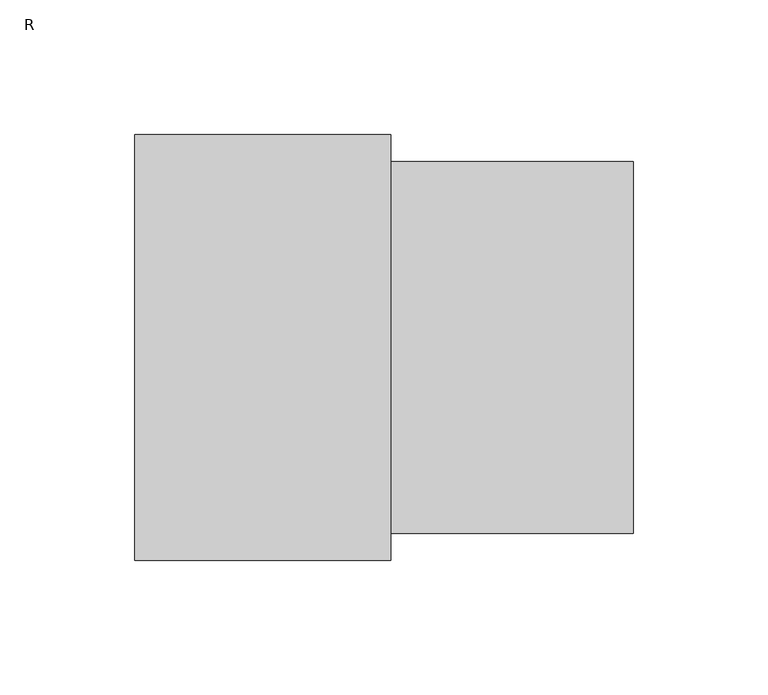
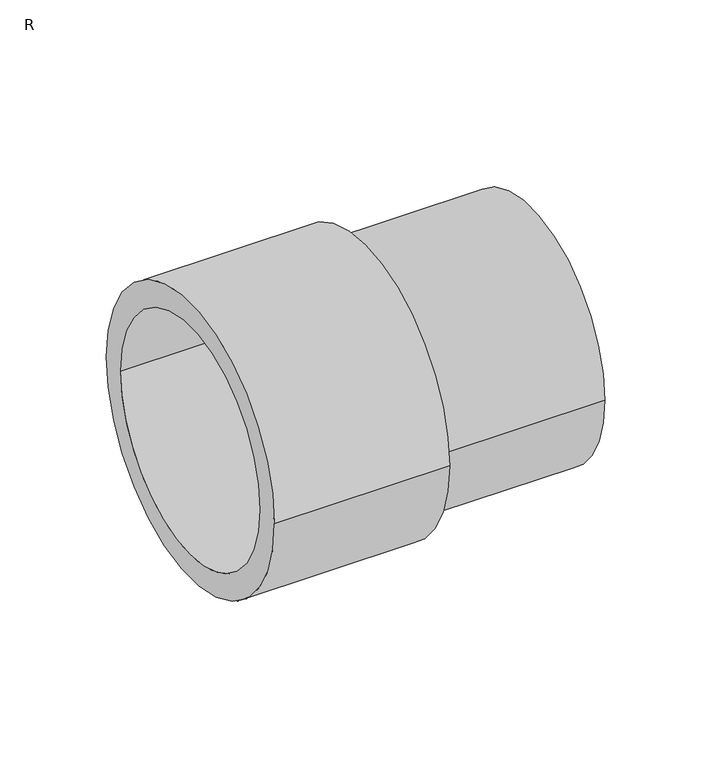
"""IFC4 building model written with IfcOpenShell, lengths in millimetres: pipe fitting geometry, FUSAPEX reducer : R."""

from ifc_helpers import new_model, si_unit, frame, origin, place, context, project, spatial, polyline, circle_curve, source, transform, mapped, element, save
from ifc_brep_helpers import plane_surface, cylinder_surface, revolved_surface, advanced_brep


def r_1e384c2f(model_context):
    return source(origin(), model_context, "Body", "AdvancedBrep", [
        advanced_brep(
        [(-95.0, 65.4, 0.0), (-95.0, -65.4, 0.0), (-14.0, -65.4, 0.0), (-14.0, 65.4, 0.0), (0.0, 79.0, 0.0), (0.0, -79.0, 0.0), (-95.0, -79.0, 0.0), (-95.0, 79.0, 0.0), (90.0, 69.0, 0.0), (90.0, -69.0, 0.0), (0.0, -69.0, 0.0), (0.0, 69.0, 0.0), (-14.0, 57.3, 0.0), (-14.0, -57.3, 0.0), (90.0, -57.3, 0.0), (90.0, 57.3, 0.0)],
        [
            (0, 1, circle_curve(frame((-95.0, 0.0, 0.0), z_axis=(-1.0, 0.0, 0.0), x_axis=(0.0, -1.0, 0.0)), 65.4)),
            (1, 2),
            (2, 3, circle_curve(frame((-14.0, 0.0, 0.0), z_axis=(1.0, 0.0, 0.0), x_axis=(0.0, -1.0, 0.0)), 65.4)),
            (3, 0),
            (4, 5, circle_curve(frame((0.0, 0.0, 0.0), z_axis=(-1.0, 0.0, 0.0), x_axis=(0.0, -1.0, 0.0)), 79.0)),
            (5, 6),
            (6, 7, circle_curve(frame((-95.0, 0.0, 0.0), z_axis=(1.0, 0.0, 0.0), x_axis=(0.0, -1.0, 0.0)), 79.0)),
            (7, 4),
            (8, 9, circle_curve(frame((90.0, 0.0, 0.0), z_axis=(-1.0, 0.0, 0.0), x_axis=(0.0, -1.0, 0.0)), 69.0)),
            (9, 10),
            (10, 11, circle_curve(frame((0.0, 0.0, 0.0), z_axis=(1.0, 0.0, 0.0), x_axis=(0.0, -1.0, 0.0)), 69.0)),
            (11, 8),
            (12, 13, circle_curve(frame((-14.0, 0.0, 0.0), z_axis=(-1.0, 0.0, 0.0), x_axis=(0.0, -1.0, 0.0)), 57.3)),
            (13, 14),
            (14, 15, circle_curve(frame((90.0, 0.0, 0.0), z_axis=(1.0, 0.0, 0.0), x_axis=(0.0, -1.0, 0.0)), 57.3)),
            (15, 12),
            (1, 0, circle_curve(frame((-95.0, 0.0, 0.0), z_axis=(-1.0, 0.0, 0.0), x_axis=(0.0, 1.0, 0.0)), 65.4)),
            (3, 2, circle_curve(frame((-14.0, 0.0, 0.0), z_axis=(1.0, 0.0, 0.0), x_axis=(0.0, 1.0, 0.0)), 65.4)),
            (6, 7, circle_curve(frame((-95.0, 0.0, 0.0), z_axis=(-1.0, 0.0, 0.0), x_axis=(0.0, 1.0, 0.0)), 79.0)),
            (5, 4, circle_curve(frame((0.0, 0.0, 0.0), z_axis=(-1.0, 0.0, 0.0), x_axis=(0.0, 1.0, 0.0)), 79.0)),
            (10, 11, circle_curve(frame((0.0, 0.0, 0.0), z_axis=(-1.0, 0.0, 0.0), x_axis=(0.0, 1.0, 0.0)), 69.0)),
            (9, 8, circle_curve(frame((90.0, 0.0, 0.0), z_axis=(-1.0, 0.0, 0.0), x_axis=(0.0, 1.0, 0.0)), 69.0)),
            (14, 15, circle_curve(frame((90.0, 0.0, 0.0), z_axis=(-1.0, 0.0, 0.0), x_axis=(0.0, 1.0, 0.0)), 57.3)),
            (13, 12, circle_curve(frame((-14.0, 0.0, 0.0), z_axis=(-1.0, 0.0, 0.0), x_axis=(0.0, 1.0, 0.0)), 57.3)),
        ],
        [
            revolved_surface(polyline([(-14.0, -65.4, 0.0), (-95.0, -65.4, 0.0)]), (0.0, 0.0, 0.0), (1.0, 0.0, 0.0)),
            cylinder_surface(frame((0.0, 0.0, 0.0), z_axis=(1.0, 0.0, 0.0), x_axis=(0.0, -1.0, 0.0)), 79.0),
            cylinder_surface(frame((0.0, 0.0, 0.0), z_axis=(1.0, 0.0, 0.0), x_axis=(0.0, -1.0, 0.0)), 69.0),
            revolved_surface(polyline([(90.0, -57.3, 0.0), (-14.0, -57.3, 0.0)]), (0.0, 0.0, 0.0), (1.0, 0.0, 0.0)),
            revolved_surface(polyline([(-14.0, 65.4, 0.0), (-95.0, 65.4, 0.0)]), (0.0, 0.0, 0.0), (1.0, 0.0, 0.0)),
            plane_surface(frame((-95.0, 0.0, 0.0), z_axis=(-1.0, 0.0, 0.0), x_axis=(0.0, 1.0, 0.0))),
            cylinder_surface(frame((0.0, 0.0, 0.0), z_axis=(1.0, 0.0, 0.0), x_axis=(0.0, 1.0, 0.0)), 79.0),
            plane_surface(frame((0.0, 0.0, 0.0), z_axis=(1.0, 0.0, 0.0), x_axis=(0.0, 1.0, 0.0))),
            cylinder_surface(frame((0.0, 0.0, 0.0), z_axis=(1.0, 0.0, 0.0), x_axis=(0.0, 1.0, 0.0)), 69.0),
            plane_surface(frame((90.0, 0.0, 0.0), z_axis=(1.0, 0.0, 0.0), x_axis=(0.0, 1.0, 0.0))),
            revolved_surface(polyline([(90.0, 57.3, 0.0), (-14.0, 57.3, 0.0)]), (0.0, 0.0, 0.0), (1.0, 0.0, 0.0)),
            plane_surface(frame((-14.0, 0.0, 0.0), z_axis=(-1.0, 0.0, 0.0), x_axis=(0.0, 1.0, 0.0))),
        ],
        [
            (0, [[1, 2, 3, 4]]),
            (1, [[5, 6, 7, 8]]),
            (2, [[9, 10, 11, 12]]),
            (3, [[13, 14, 15, 16]]),
            (4, [[17, -4, 18, -2]]),
            (5, [[19, -7], [-17, -1]]),
            (6, [[20, -8, -19, -6]]),
            (7, [[-20, -5], [21, -11]]),
            (8, [[22, -12, -21, -10]]),
            (9, [[-22, -9], [23, -15]]),
            (10, [[24, -16, -23, -14]]),
            (11, [[-18, -3], [-24, -13]]),
        ],
    ),
    ])


if __name__ == "__main__":
    model = new_model("IFC4")
    model_context = context("Model", 3, world=origin())
    ifc_project = project(units=[si_unit("LENGTHUNIT", "METRE", prefix="MILLI")], contexts=[model_context])
    site = spatial("IfcSite", under=ifc_project)
    building = spatial("IfcBuilding", under=site)
    placement = place(None, origin())
    r_shape = r_1e384c2f(model_context)
    element("IfcPipeFitting", 1, ObjectType="FUSAPEX reducer : R", at=placement, inside=building, context=model_context, shape_type="MappedRepresentation", body=[
        mapped(r_shape, transform((0.0, 0.0, 0.0), x_axis=(1.0, 0.0, 0.0), y_axis=(0.0, 1.0, 0.0), z_axis=(0.0, 0.0, 1.0))),
    ])
    save(model, "model.ifc")
